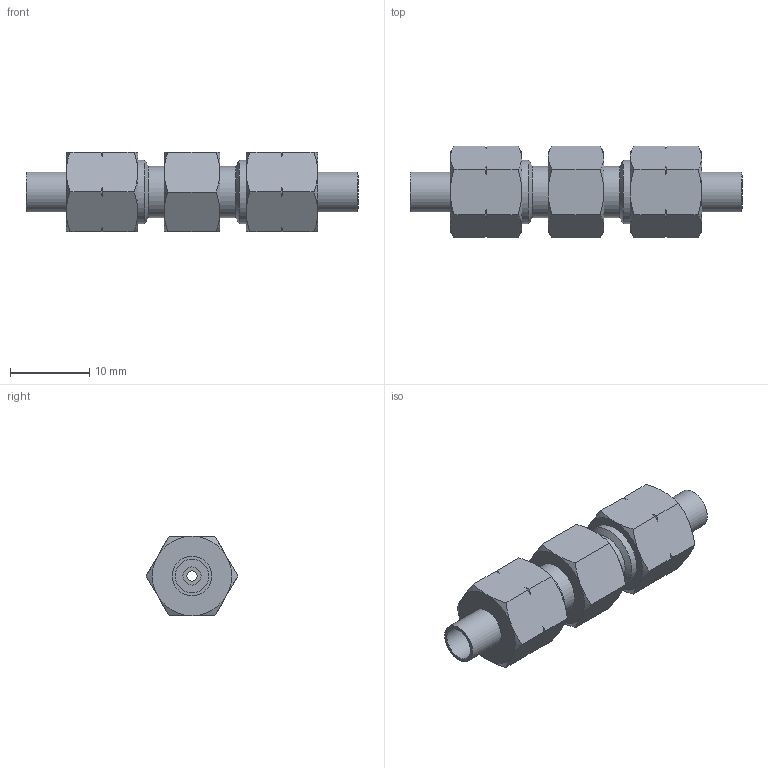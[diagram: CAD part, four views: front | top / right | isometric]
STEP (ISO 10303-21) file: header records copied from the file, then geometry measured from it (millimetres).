
FILE_DESCRIPTION(/* description */ (''),/* implementation_level */ '2;1');
FILE_NAME(/* name */ 'D:\CDC pneumatics\inventor\two touch fitting BSBM\CUC\CUC 4x2.stp',/* time_stamp */ '2015-08-24T13:40:19+09:00',/* author */ ('DIAMOND'),/* organization */ (''),/* preprocessor_version */ 'ST-DEVELOPER v15.6',/* originating_system */ 'Autodesk Inventor 2015',/* authorisation */ '');
FILE_SCHEMA (('AUTOMOTIVE_DESIGN { 1 0 10303 214 3 1 1 }'));
Length unit declared in the file: millimetre
Products named in the file (1): CUC 4x2
Bounding box: 41.84 x 11.55 x 10 mm (x, y, z)
Volume: 2245.8 mm3; surface area: 2134.6 mm2
Topology: 1 solids, 1 shells, 103 faces, 235 edges, 144 vertices
Faces by surface type: cone 62, plane 30, cylinder 11
Full cylindrical faces by diameter (mm): 1.3 x1, 2.3 x2, 4.2 x2, 5 x2, 6.5 x2, 8 x2
Entity records: 2687 total; most frequent: CARTESIAN_POINT 706, ORIENTED_EDGE 440, DIRECTION 378, EDGE_CURVE 220, AXIS2_PLACEMENT_3D 174, VERTEX_POINT 142, EDGE_LOOP 128, FACE_OUTER_BOUND 103
